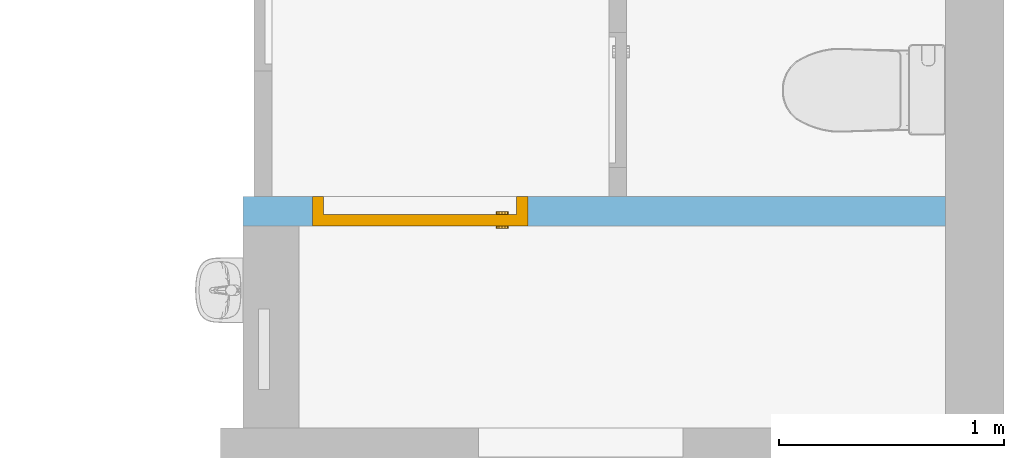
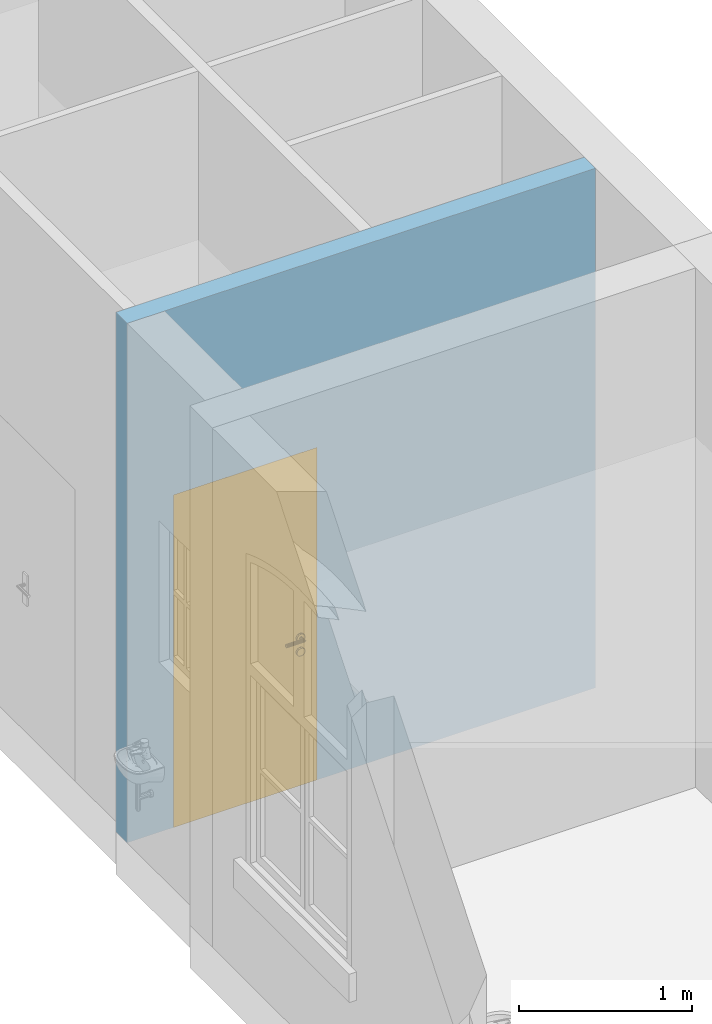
"""IFC4 building model written with IfcOpenShell, lengths in metres."""

from ifc_helpers import new_model, entity, si_unit, converted_unit, derived_unit, frame, frame_2d, origin, origin_with_axes, place, context, subcontext, project, spatial, polyline, rectangle, outline, extrude, faceted_brep, source, transform, mapped, material, layer, layer_set, layer_usage, type_object, element, fill, save


model = new_model("IFC4")

# Units and contexts
model_context = context("Model", 3, precision=1e-05, world=origin())
body_context = subcontext(model_context, "Body", "Model", "MODEL_VIEW")
ifc_project = project(units=[si_unit("LENGTHUNIT", "METRE"), si_unit("AREAUNIT", "SQUARE_METRE"), si_unit("VOLUMEUNIT", "CUBIC_METRE"), si_unit("MASSUNIT", "GRAM", prefix="KILO"), converted_unit("PLANEANGLEUNIT", "DEGREE", entity("IfcPlaneAngleMeasure", 0.0174532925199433), si_unit("PLANEANGLEUNIT", "RADIAN"), dimensions=[0, 0, 0, 0, 0, 0, 0]), derived_unit("THERMALTRANSMITTANCEUNIT", [(si_unit("POWERUNIT", "WATT"), 1), (si_unit("THERMODYNAMICTEMPERATUREUNIT", "KELVIN"), -1), (si_unit("LENGTHUNIT", "METRE"), -2)]), derived_unit("VOLUMETRICFLOWRATEUNIT", [(si_unit("LENGTHUNIT", "METRE"), 3), (converted_unit("TIMEUNIT", "hour", entity("IfcTimeMeasure", 3600.0), si_unit("TIMEUNIT", "SECOND"), dimensions=[0, 0, 1, 0, 0, 0, 0]), -1), (si_unit("LENGTHUNIT", "METRE"), -1)])], contexts=[model_context])

# Building, storeys
building_placement = place(None, origin())
building = spatial("IfcBuilding", under=ifc_project, at=building_placement, Name="Bestandsgebäude A - Sporthalle / Wohnhaus (TB 100-499)   ANPASSEN !!!", CompositionType="ELEMENT")
storey_1_placement = place(building_placement, origin())
storey_1 = spatial("IfcBuildingStorey", under=building, at=storey_1_placement, Name="Geb. A Erdgeschoss (TB 200-249)", CompositionType="ELEMENT", Elevation=0.0)
storey_2_placement = place(storey_1_placement, origin())
storey_2 = spatial("IfcBuildingStorey", under=storey_1, at=storey_2_placement, Name="Architektur (TB 200-209)", CompositionType="PARTIAL")

# Wall, opening, door
ifc_material = material(Name="masonry")
ifc_layer = layer(ifc_material, 0.13)
ifc_layer_set = layer_set([ifc_layer])
ifc_layer_usage = layer_usage(ifc_layer_set, "AXIS2", "POSITIVE", 0.0)
wall_placement = place(storey_2_placement, frame((-0.259999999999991, 17.26, 0.0), z_axis=(0.0, 0.0, 1.0), x_axis=(-1.0, 0.0, 0.0)))
wall = element("IfcWall", 1, at=wall_placement, inside=storey_2, material=ifc_layer_usage, Name="masonry load-bearing", PredefinedType="USERDEFINED", context=body_context, shape_type="SweptSolid", body=[
    extrude(rectangle(XDim=3.13000000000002, YDim=0.13, at=frame_2d((1.56500000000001, 0.065), x_axis=(1.0, 0.0))), origin_with_axes(), (0.0, 0.0, 1.0), 3.67),
])
opening_placement = place(wall_placement, frame((1.86000000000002, 0.0, 0.0), z_axis=(0.0, 1.0, 0.0), x_axis=(0.0, 0.0, 1.0)))
opening = element("IfcOpeningElement", 2, at=opening_placement, cuts=wall, Name="Door opening", PredefinedType="OPENING", context=body_context, shape_type="SweptSolid", body=[
    extrude(outline(polyline([(2.35, 0.959999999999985), (2.35, 0.0), (0.0, 0.0), (0.0, 0.959999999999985), (2.35, 0.959999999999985)])), origin_with_axes(), (0.0, 0.0, 1.0), 0.13),
])
door_type = type_object("IfcDoorType", Name="door", OperationType="SINGLE_SWING_RIGHT", ParameterTakesPrecedence=False, PredefinedType="DOOR")
shared_shape = source(origin_with_axes(), body_context, "Body", "Brep", [
    faceted_brep([(0.0, 0.13, 2.35), (0.0, 0.13, 0.0), (0.0499999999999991, 0.13, 0.0), (0.0499999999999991, 0.13, 2.35), (0.0, 0.0, 0.0), (0.0, 0.0, 2.35), (0.0499999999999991, 0.0, 2.35), (0.0499999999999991, 0.0, 0.0)], [[[0, 1, 2, 3]], [[4, 5, 6, 7]], [[1, 0, 5, 4]], [[2, 1, 4, 7]], [[3, 2, 7, 6]], [[0, 3, 6, 5]]], orient=[[False], [False], [False], [False], [False], [False]]),
    faceted_brep([(0.909999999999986, 0.13, 2.35), (0.909999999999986, 0.13, 0.0), (0.959999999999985, 0.13, 0.0), (0.959999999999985, 0.13, 2.35), (0.909999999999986, 0.0, 0.0), (0.909999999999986, 0.0, 2.35), (0.959999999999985, 0.0, 2.35), (0.959999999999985, 0.0, 0.0)], [[[0, 1, 2, 3]], [[4, 5, 6, 7]], [[1, 0, 5, 4]], [[2, 1, 4, 7]], [[3, 2, 7, 6]], [[0, 3, 6, 5]]], orient=[[False], [False], [False], [False], [False], [False]]),
    faceted_brep([(0.0499999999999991, 0.13, 2.35), (0.0499999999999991, 0.13, 2.3), (0.909999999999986, 0.13, 2.3), (0.909999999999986, 0.13, 2.35), (0.0499999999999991, 0.0, 2.3), (0.0499999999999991, 0.0, 2.35), (0.909999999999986, 0.0, 2.35), (0.909999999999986, 0.0, 2.3)], [[[0, 1, 2, 3]], [[4, 5, 6, 7]], [[1, 0, 5, 4]], [[2, 1, 4, 7]], [[3, 2, 7, 6]], [[0, 3, 6, 5]]], orient=[[False], [False], [False], [False], [False], [False]]),
    faceted_brep([(0.0499999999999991, 0.13, 2.3), (0.0499999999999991, 0.13, 0.0), (0.909999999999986, 0.13, 0.0), (0.909999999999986, 0.13, 2.3), (0.0499999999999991, 0.08, 0.0), (0.0499999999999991, 0.08, 2.3), (0.909999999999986, 0.08, 2.3), (0.909999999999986, 0.08, 0.0)], [[[0, 1, 2, 3]], [[4, 5, 6, 7]], [[1, 0, 5, 4]], [[2, 1, 4, 7]], [[3, 2, 7, 6]], [[0, 3, 6, 5]]], orient=[[False], [False], [False], [False], [False], [False]]),
    faceted_brep([(0.13881569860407, 0.08, 0.93625), (0.142499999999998, 0.08, 0.95), (0.13881569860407, 0.08, 0.96375), (0.128749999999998, 0.08, 0.973815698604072), (0.114999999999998, 0.08, 0.9775), (0.101249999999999, 0.08, 0.973815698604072), (0.0911843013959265, 0.08, 0.96375), (0.0874999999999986, 0.08, 0.95), (0.0911843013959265, 0.08, 0.93625), (0.101249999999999, 0.08, 0.926184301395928), (0.114999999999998, 0.08, 0.9225), (0.128749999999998, 0.08, 0.926184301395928), (0.142499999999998, 0.0675, 0.95), (0.13881569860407, 0.0675, 0.93625), (0.128749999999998, 0.0675, 0.926184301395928), (0.114999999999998, 0.0675, 0.9225), (0.101249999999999, 0.0675, 0.926184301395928), (0.0911843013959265, 0.0675, 0.93625), (0.0874999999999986, 0.0675, 0.95), (0.0911843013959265, 0.0675, 0.96375), (0.101249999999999, 0.0675, 0.973815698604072), (0.114999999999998, 0.0675, 0.9775), (0.128749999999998, 0.0675, 0.973815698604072), (0.13881569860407, 0.0675, 0.96375)], [[[0, 1, 2, 3, 4, 5, 6, 7, 8, 9, 10, 11]], [[12, 13, 14, 15, 16, 17, 18, 19, 20, 21, 22, 23]], [[1, 0, 13, 12]], [[2, 1, 12, 23]], [[3, 2, 23, 22]], [[4, 3, 22, 21]], [[5, 4, 21, 20]], [[6, 5, 20, 19]], [[7, 6, 19, 18]], [[8, 7, 18, 17]], [[9, 8, 17, 16]], [[10, 9, 16, 15]], [[11, 10, 15, 14]], [[0, 11, 14, 13]]], orient=[[False], [False], [False], [False], [False], [False], [False], [False], [False], [False], [False], [False], [False], [False]]),
    faceted_brep([(0.13881569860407, 0.08, 1.03625), (0.142499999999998, 0.08, 1.05), (0.13881569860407, 0.08, 1.06375), (0.128749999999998, 0.08, 1.07381569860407), (0.114999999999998, 0.08, 1.0775), (0.101249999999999, 0.08, 1.07381569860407), (0.0911843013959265, 0.08, 1.06375), (0.0874999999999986, 0.08, 1.05), (0.0911843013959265, 0.08, 1.03625), (0.101249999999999, 0.08, 1.02618430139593), (0.114999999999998, 0.08, 1.0225), (0.128749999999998, 0.08, 1.02618430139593), (0.142499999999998, 0.0675, 1.05), (0.13881569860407, 0.0675, 1.03625), (0.128749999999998, 0.0675, 1.02618430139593), (0.114999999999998, 0.0675, 1.0225), (0.101249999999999, 0.0675, 1.02618430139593), (0.0911843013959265, 0.0675, 1.03625), (0.0874999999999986, 0.0675, 1.05), (0.0911843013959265, 0.0675, 1.06375), (0.101249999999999, 0.0675, 1.07381569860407), (0.114999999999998, 0.0675, 1.0775), (0.128749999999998, 0.0675, 1.07381569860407), (0.13881569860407, 0.0675, 1.06375)], [[[0, 1, 2, 3, 4, 5, 6, 7, 8, 9, 10, 11]], [[12, 13, 14, 15, 16, 17, 18, 19, 20, 21, 22, 23]], [[1, 0, 13, 12]], [[2, 1, 12, 23]], [[3, 2, 23, 22]], [[4, 3, 22, 21]], [[5, 4, 21, 20]], [[6, 5, 20, 19]], [[7, 6, 19, 18]], [[8, 7, 18, 17]], [[9, 8, 17, 16]], [[10, 9, 16, 15]], [[11, 10, 15, 14]], [[0, 11, 14, 13]]], orient=[[False], [False], [False], [False], [False], [False], [False], [False], [False], [False], [False], [False], [False], [False]]),
    faceted_brep([(0.114999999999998, 0.08, 1.06), (0.109999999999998, 0.08, 1.05866025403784), (0.106339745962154, 0.08, 1.055), (0.104999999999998, 0.08, 1.05), (0.106339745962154, 0.08, 1.045), (0.109999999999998, 0.08, 1.04133974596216), (0.114999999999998, 0.08, 1.04), (0.119999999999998, 0.08, 1.04133974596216), (0.123660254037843, 0.08, 1.045), (0.124999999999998, 0.08, 1.05), (0.123660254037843, 0.08, 1.055), (0.119999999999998, 0.08, 1.05866025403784), (0.114999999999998, 0.04, 1.06), (0.109999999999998, 0.035, 1.05866025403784), (0.106339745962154, 0.0313397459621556, 1.055), (0.104999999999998, 0.03, 1.05), (0.106339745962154, 0.0313397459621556, 1.045), (0.109999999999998, 0.035, 1.04133974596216), (0.114999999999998, 0.04, 1.04), (0.119999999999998, 0.045, 1.04133974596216), (0.123660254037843, 0.0486602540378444, 1.045), (0.124999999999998, 0.05, 1.05), (0.123660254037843, 0.0486602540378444, 1.055), (0.119999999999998, 0.045, 1.05866025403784), (0.229999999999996, 0.04, 1.06), (0.229999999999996, 0.045, 1.05866025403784), (0.229999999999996, 0.0486602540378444, 1.055), (0.229999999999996, 0.05, 1.05), (0.229999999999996, 0.0486602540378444, 1.045), (0.229999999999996, 0.045, 1.04133974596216), (0.229999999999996, 0.04, 1.04), (0.229999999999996, 0.035, 1.04133974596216), (0.229999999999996, 0.0313397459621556, 1.045), (0.229999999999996, 0.03, 1.05), (0.229999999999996, 0.0313397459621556, 1.055), (0.229999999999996, 0.035, 1.05866025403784)], [[[0, 1, 2, 3, 4, 5, 6, 7, 8, 9, 10, 11]], [[0, 12, 13, 1]], [[1, 13, 14, 2]], [[2, 14, 15, 3]], [[3, 15, 16, 4]], [[4, 16, 17, 5]], [[5, 17, 18, 6]], [[6, 18, 19, 7]], [[7, 19, 20, 8]], [[8, 20, 21, 9]], [[9, 21, 22, 10]], [[10, 22, 23, 11]], [[11, 23, 12, 0]], [[24, 25, 26, 27, 28, 29, 30, 31, 32, 33, 34, 35]], [[12, 24, 35, 13]], [[13, 35, 34, 14]], [[14, 34, 33, 15]], [[15, 33, 32, 16]], [[16, 32, 31, 17]], [[17, 31, 30, 18]], [[18, 30, 29, 19]], [[19, 29, 28, 20]], [[20, 28, 27, 21]], [[21, 27, 26, 22]], [[22, 26, 25, 23]], [[23, 25, 24, 12]]], orient=[[False], [False], [False], [False], [False], [False], [False], [False], [False], [False], [False], [False], [False], [False], [False], [False], [False], [False], [False], [False], [False], [False], [False], [False], [False], [False]]),
    faceted_brep([(0.13881569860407, 0.13, 0.93625), (0.128749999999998, 0.13, 0.926184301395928), (0.114999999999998, 0.13, 0.9225), (0.101249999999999, 0.13, 0.926184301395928), (0.0911843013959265, 0.13, 0.93625), (0.0874999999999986, 0.13, 0.95), (0.0911843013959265, 0.13, 0.96375), (0.101249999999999, 0.13, 0.973815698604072), (0.114999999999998, 0.13, 0.9775), (0.128749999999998, 0.13, 0.973815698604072), (0.13881569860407, 0.13, 0.96375), (0.142499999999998, 0.13, 0.95), (0.142499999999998, 0.1425, 0.95), (0.13881569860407, 0.1425, 0.96375), (0.128749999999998, 0.1425, 0.973815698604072), (0.114999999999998, 0.1425, 0.9775), (0.101249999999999, 0.1425, 0.973815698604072), (0.0911843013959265, 0.1425, 0.96375), (0.0874999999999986, 0.1425, 0.95), (0.0911843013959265, 0.1425, 0.93625), (0.101249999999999, 0.1425, 0.926184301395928), (0.114999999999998, 0.1425, 0.9225), (0.128749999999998, 0.1425, 0.926184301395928), (0.13881569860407, 0.1425, 0.93625)], [[[0, 1, 2, 3, 4, 5, 6, 7, 8, 9, 10, 11]], [[12, 13, 14, 15, 16, 17, 18, 19, 20, 21, 22, 23]], [[11, 12, 23, 0]], [[10, 13, 12, 11]], [[9, 14, 13, 10]], [[8, 15, 14, 9]], [[7, 16, 15, 8]], [[6, 17, 16, 7]], [[5, 18, 17, 6]], [[4, 19, 18, 5]], [[3, 20, 19, 4]], [[2, 21, 20, 3]], [[1, 22, 21, 2]], [[0, 23, 22, 1]]], orient=[[False], [False], [False], [False], [False], [False], [False], [False], [False], [False], [False], [False], [False], [False]]),
    faceted_brep([(0.13881569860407, 0.13, 1.03625), (0.128749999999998, 0.13, 1.02618430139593), (0.114999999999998, 0.13, 1.0225), (0.101249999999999, 0.13, 1.02618430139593), (0.0911843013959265, 0.13, 1.03625), (0.0874999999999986, 0.13, 1.05), (0.0911843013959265, 0.13, 1.06375), (0.101249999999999, 0.13, 1.07381569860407), (0.114999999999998, 0.13, 1.0775), (0.128749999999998, 0.13, 1.07381569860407), (0.13881569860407, 0.13, 1.06375), (0.142499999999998, 0.13, 1.05), (0.142499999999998, 0.1425, 1.05), (0.13881569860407, 0.1425, 1.06375), (0.128749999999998, 0.1425, 1.07381569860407), (0.114999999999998, 0.1425, 1.0775), (0.101249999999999, 0.1425, 1.07381569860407), (0.0911843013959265, 0.1425, 1.06375), (0.0874999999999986, 0.1425, 1.05), (0.0911843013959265, 0.1425, 1.03625), (0.101249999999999, 0.1425, 1.02618430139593), (0.114999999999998, 0.1425, 1.0225), (0.128749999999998, 0.1425, 1.02618430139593), (0.13881569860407, 0.1425, 1.03625)], [[[0, 1, 2, 3, 4, 5, 6, 7, 8, 9, 10, 11]], [[12, 13, 14, 15, 16, 17, 18, 19, 20, 21, 22, 23]], [[11, 12, 23, 0]], [[10, 13, 12, 11]], [[9, 14, 13, 10]], [[8, 15, 14, 9]], [[7, 16, 15, 8]], [[6, 17, 16, 7]], [[5, 18, 17, 6]], [[4, 19, 18, 5]], [[3, 20, 19, 4]], [[2, 21, 20, 3]], [[1, 22, 21, 2]], [[0, 23, 22, 1]]], orient=[[False], [False], [False], [False], [False], [False], [False], [False], [False], [False], [False], [False], [False], [False]]),
    faceted_brep([(0.114999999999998, 0.13, 1.06), (0.119999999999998, 0.13, 1.05866025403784), (0.123660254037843, 0.13, 1.055), (0.124999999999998, 0.13, 1.05), (0.123660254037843, 0.13, 1.045), (0.119999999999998, 0.13, 1.04133974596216), (0.114999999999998, 0.13, 1.04), (0.109999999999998, 0.13, 1.04133974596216), (0.106339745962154, 0.13, 1.045), (0.104999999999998, 0.13, 1.05), (0.106339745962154, 0.13, 1.055), (0.109999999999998, 0.13, 1.05866025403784), (0.109999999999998, 0.175, 1.05866025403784), (0.114999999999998, 0.17, 1.06), (0.106339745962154, 0.178660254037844, 1.055), (0.104999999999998, 0.18, 1.05), (0.106339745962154, 0.178660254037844, 1.045), (0.109999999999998, 0.175, 1.04133974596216), (0.114999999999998, 0.17, 1.04), (0.119999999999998, 0.165, 1.04133974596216), (0.123660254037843, 0.161339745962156, 1.045), (0.124999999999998, 0.16, 1.05), (0.123660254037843, 0.161339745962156, 1.055), (0.119999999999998, 0.165, 1.05866025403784), (0.229999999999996, 0.17, 1.06), (0.229999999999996, 0.175, 1.05866025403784), (0.229999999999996, 0.178660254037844, 1.055), (0.229999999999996, 0.18, 1.05), (0.229999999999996, 0.178660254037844, 1.045), (0.229999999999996, 0.175, 1.04133974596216), (0.229999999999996, 0.17, 1.04), (0.229999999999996, 0.165, 1.04133974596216), (0.229999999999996, 0.161339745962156, 1.045), (0.229999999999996, 0.16, 1.05), (0.229999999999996, 0.161339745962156, 1.055), (0.229999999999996, 0.165, 1.05866025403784)], [[[0, 1, 2, 3, 4, 5, 6, 7, 8, 9, 10, 11]], [[0, 11, 12, 13]], [[11, 10, 14, 12]], [[10, 9, 15, 14]], [[9, 8, 16, 15]], [[8, 7, 17, 16]], [[7, 6, 18, 17]], [[6, 5, 19, 18]], [[5, 4, 20, 19]], [[4, 3, 21, 20]], [[3, 2, 22, 21]], [[2, 1, 23, 22]], [[1, 0, 13, 23]], [[24, 25, 26, 27, 28, 29, 30, 31, 32, 33, 34, 35]], [[13, 12, 25, 24]], [[12, 14, 26, 25]], [[14, 15, 27, 26]], [[15, 16, 28, 27]], [[16, 17, 29, 28]], [[17, 18, 30, 29]], [[18, 19, 31, 30]], [[19, 20, 32, 31]], [[20, 21, 33, 32]], [[21, 22, 34, 33]], [[22, 23, 35, 34]], [[23, 13, 24, 35]]], orient=[[False], [False], [False], [False], [False], [False], [False], [False], [False], [False], [False], [False], [False], [False], [False], [False], [False], [False], [False], [False], [False], [False], [False], [False], [False], [False]]),
])
door_placement = place(opening_placement, frame((0.0, 0.0, 0.0), z_axis=(1.0, 0.0, 0.0), x_axis=(0.0, 1.0, 0.0)))
door = element("IfcDoor", 3, at=door_placement, inside=storey_2, type_object=door_type, Name="door", OverallHeight=2.35, OverallWidth=0.96, PredefinedType="DOOR", context=body_context, shape_type="MappedRepresentation", body=[
    mapped(shared_shape, transform((0.0, 0.0, 0.0), x_axis=(1.0, 0.0, 0.0), y_axis=(0.0, 1.0, 0.0), z_axis=(0.0, 0.0, 1.0), scale=1.0)),
])
fill(opening, door)

save(model, "model.ifc")
